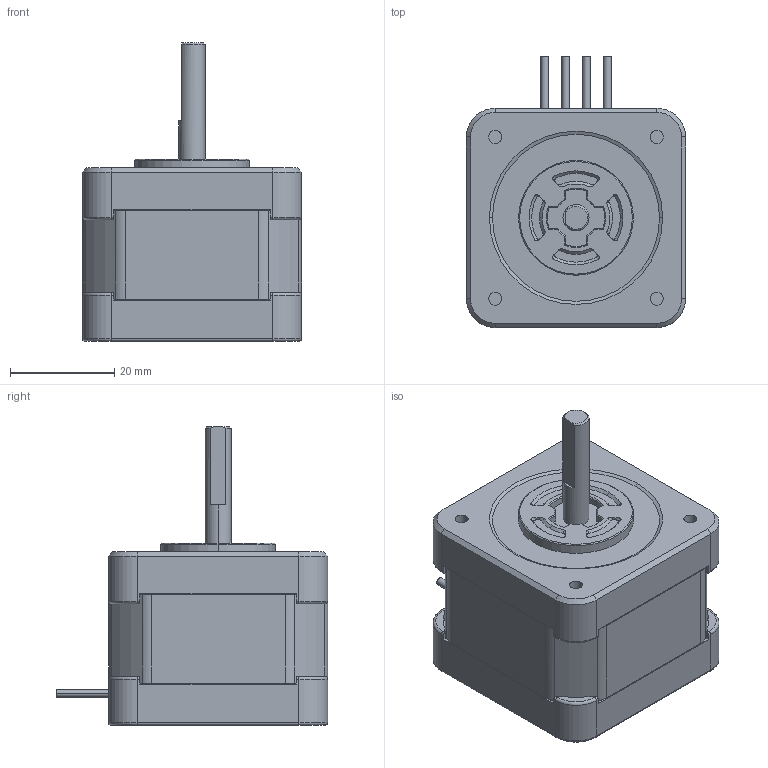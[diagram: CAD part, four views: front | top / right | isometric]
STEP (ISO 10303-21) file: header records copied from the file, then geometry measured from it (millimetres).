
FILE_DESCRIPTION (( 'STEP AP203' ), '1' );
FILE_NAME ('SH1421-5041.STEP', '2012-10-19T06:17:55', ( 'sanyodenki-admin' ), ( '' ), 'SwSTEP 2.0', 'SolidWorks 2011', '' );
FILE_SCHEMA (( 'CONFIG_CONTROL_DESIGN' ));
Length unit declared in the file: millimetre
Products named in the file (1): SH1421-5041
Bounding box: 42 x 52 x 57.25 mm (x, y, z)
Volume: 57277.8 mm3; surface area: 10457.9 mm2
Topology: 1 solids, 1 shells, 339 faces, 836 edges, 514 vertices
Faces by surface type: plane 151, cylinder 103, cone 55, bspline 18, torus 12
Entity records: 10428 total; most frequent: CARTESIAN_POINT 2426, ORIENTED_EDGE 1668, DIRECTION 1657, EDGE_CURVE 834, AXIS2_PLACEMENT_3D 609, VERTEX_POINT 514, VECTOR 439, LINE 439
